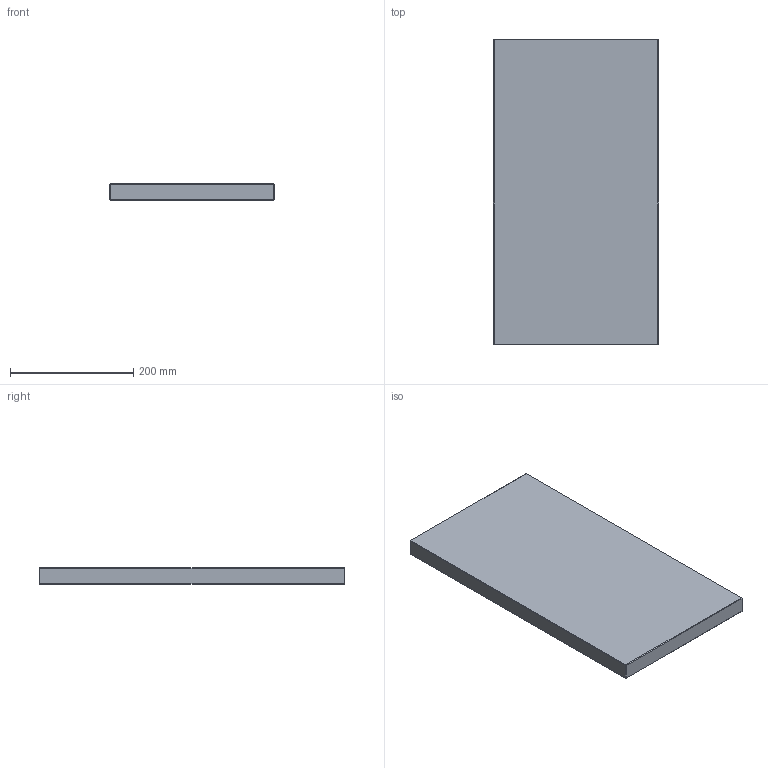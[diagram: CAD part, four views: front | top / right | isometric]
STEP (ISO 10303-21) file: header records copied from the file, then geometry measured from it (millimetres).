
FILE_DESCRIPTION (( 'STEP AP214' ), '1' );
FILE_NAME ('CPE-P-396x496x27.STEP', '2021-03-25T14:01:18', ( '' ), ( '' ), 'SwSTEP 2.0', 'SolidWorks 2018', '' );
FILE_SCHEMA (( 'AUTOMOTIVE_DESIGN' ));
Length unit declared in the file: millimetre
Products named in the file (1): CPE-P-396x496x27
Bounding box: 268 x 496 x 27 mm (x, y, z)
Volume: 3587479.3 mm3; surface area: 305255.6 mm2
Topology: 1 solids, 1 shells, 26 faces, 48 edges, 24 vertices
Faces by surface type: plane 26
Entity records: 634 total; most frequent: DIRECTION 102, CARTESIAN_POINT 99, ORIENTED_EDGE 96, EDGE_CURVE 48, LINE 48, VECTOR 48, AXIS2_PLACEMENT_3D 27, ADVANCED_FACE 26
